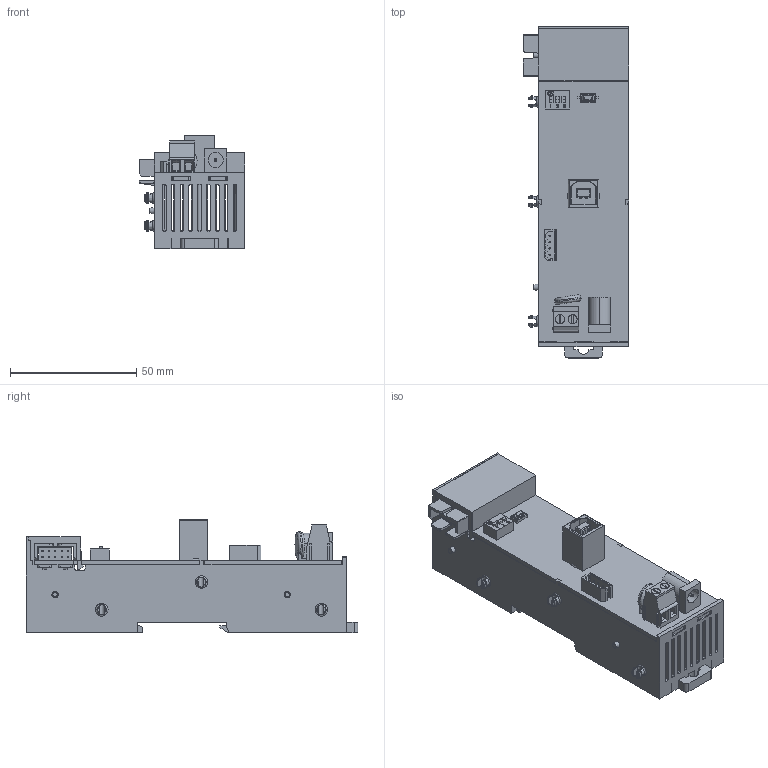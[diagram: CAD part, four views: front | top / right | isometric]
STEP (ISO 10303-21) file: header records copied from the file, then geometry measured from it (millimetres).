
FILE_DESCRIPTION (( 'STEP AP214' ), '1' );
FILE_NAME ('CFNET_CFHEADER.STEP', '2025-06-24T02:39:09', ( '' ), ( '' ), 'SwSTEP 2.0', 'SolidWorks 2020', '' );
FILE_SCHEMA (( 'AUTOMOTIVE_DESIGN' ));
Length unit declared in the file: millimetre
Products named in the file (1): CFNET_CFHEADER
Bounding box: 42 x 131.5 x 44.8 mm (x, y, z)
Volume: 40709.6 mm3; surface area: 47593.5 mm2
Topology: 1 solids, 4 shells, 1292 faces, 3553 edges, 2292 vertices
Faces by surface type: plane 956, cylinder 159, cone 99, bspline 40, torus 34, sphere 4
Full cylindrical faces by diameter (mm): 0.5 x14, 1 x3, 1.6 x2, 2 x1, 3.6 x2, 4.6 x3, 6 x2, 9 x1, 10.5 x1
Entity records: 42424 total; most frequent: CARTESIAN_POINT 10526, ORIENTED_EDGE 6898, DIRECTION 6025, EDGE_CURVE 3449, VECTOR 2759, LINE 2759, VERTEX_POINT 2259, AXIS2_PLACEMENT_3D 1633
